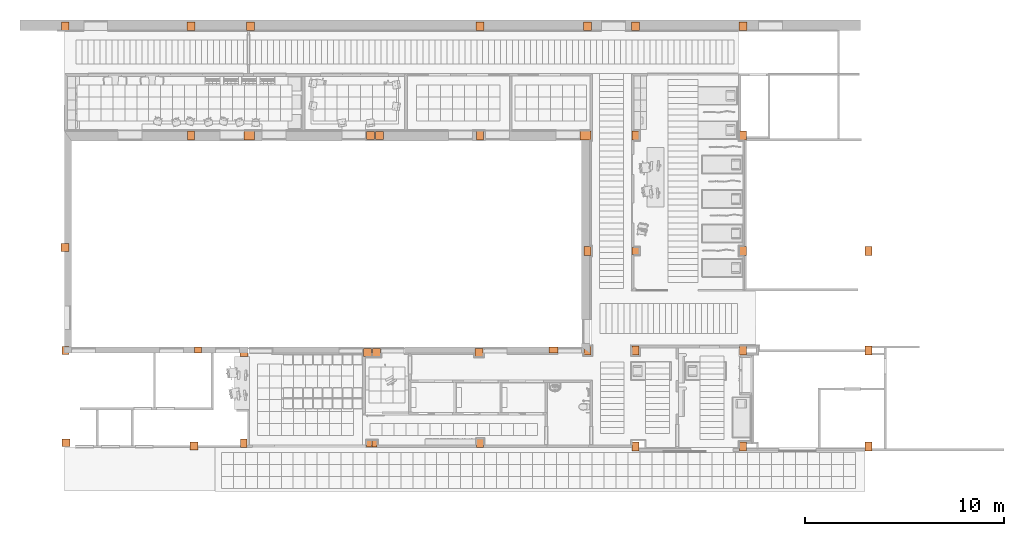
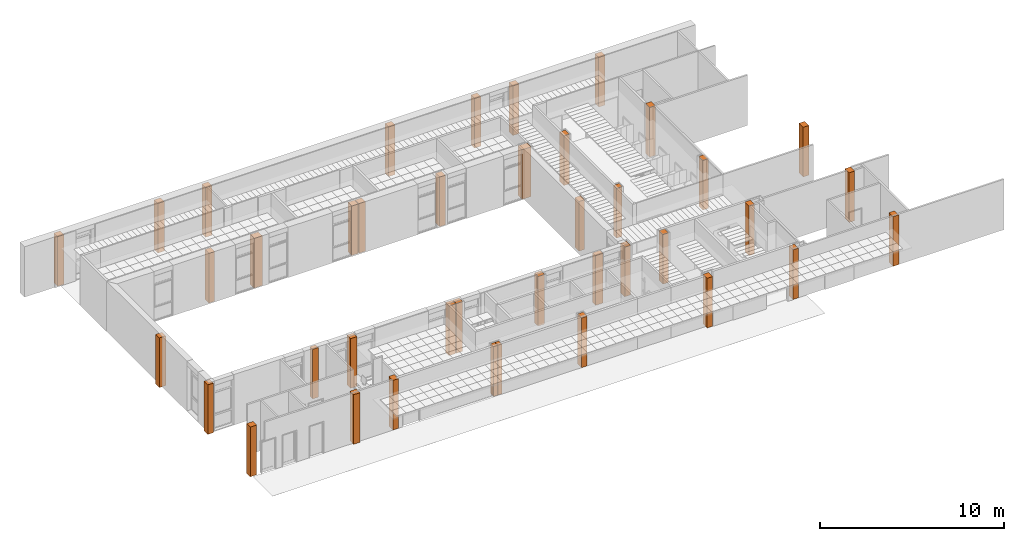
# One storey, part 68 of 68: 40 proxies.
"""IFC2X3 building model written with IfcOpenShell, lengths in millimetres."""

from ifc_helpers import new_model, entity, si_unit, converted_unit, derived_unit, money_unit, direction, frame, origin_with_axes, origin_2d_with_axis, place, context, subcontext, project, spatial, rectangle, extrude, material, type_object, element, save


model = new_model("IFC2X3")

# Units and contexts
model_context = context("Model", 3, precision=0.01, world=origin_with_axes(), true_north=direction((0.0, 1.0)))
body_context = subcontext(model_context, "Body", "Model", "MODEL_VIEW")
ifc_project = project(units=[si_unit("LENGTHUNIT", "METRE", prefix="MILLI"), si_unit("AREAUNIT", "SQUARE_METRE"), si_unit("VOLUMEUNIT", "CUBIC_METRE"), converted_unit("PLANEANGLEUNIT", "DEGREE", entity("IfcPlaneAngleMeasure", 0.0174532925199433), si_unit("PLANEANGLEUNIT", "RADIAN"), dimensions=[0, 0, 0, 0, 0, 0, 0]), money_unit("USD"), converted_unit("TIMEUNIT", "Year", entity("IfcTimeMeasure", 31557600.0), si_unit("TIMEUNIT", "SECOND"), dimensions=[0, 0, 1, 0, 0, 0, 0]), si_unit("MASSUNIT", "GRAM", prefix="KILO"), si_unit("THERMODYNAMICTEMPERATUREUNIT", "DEGREE_CELSIUS"), si_unit("LUMINOUSINTENSITYUNIT", "LUMEN"), si_unit("ENERGYUNIT", "JOULE", prefix="MEGA"), derived_unit("THERMALCONDUCTANCEUNIT", [(si_unit("POWERUNIT", "WATT"), 1), (si_unit("LENGTHUNIT", "METRE"), -1), (si_unit("THERMODYNAMICTEMPERATUREUNIT", "KELVIN"), -1)]), derived_unit("SPECIFICHEATCAPACITYUNIT", [(si_unit("ENERGYUNIT", "JOULE"), 1), (si_unit("MASSUNIT", "GRAM", prefix="KILO"), -1), (si_unit("THERMODYNAMICTEMPERATUREUNIT", "KELVIN"), -1)]), derived_unit("MASSDENSITYUNIT", [(si_unit("MASSUNIT", "GRAM", prefix="KILO"), 1), (si_unit("VOLUMEUNIT", "CUBIC_METRE"), -1)])], contexts=[model_context])

# Site, building, storey
site_placement = place(None, origin_with_axes())
site = spatial("IfcSite", under=ifc_project, at=site_placement, Name="Sitio", CompositionType="ELEMENT")
building_placement = place(site_placement, origin_with_axes())
building = spatial("IfcBuilding", under=site, at=building_placement, Name="Construcción", CompositionType="ELEMENT")
storey_placement = place(building_placement, origin_with_axes())
storey = spatial("IfcBuildingStorey", under=building, at=storey_placement, Name="PLANTA 1ª", CompositionType="ELEMENT", Elevation=0.0)

# Proxies
ifc_material = material(Name="ARQ_GN002_Generic Estructural")
building_element_proxy_type_1 = type_object("IfcBuildingElementProxyType", Name="ARQ_GN002_Generic Estructural 400 x 400", PredefinedType="NOTDEFINED")
for number, where, z_axis, x_axis, name in (
    (1, (-12397.41864098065, -12294.56065474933, 0.0), (0.0, 0.0, 1.0), (1.0, 0.0, 0.0), "CRE - 005"),
    (2, (-7250.39355072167, -12294.56065474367, 0.0), (0.0, 0.0, 1.0), (1.0, 0.0, 0.0), "CRE - 005"),
    (3, (-12848.36846045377, -12294.56065474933, 0.0), (0.0, 0.0, 1.0), (1.0, 0.0, 0.0), "CRE - 005"),
    (4, (-19050.39355072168, -12294.56065474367, 0.0), (0.0, 0.0, 1.0), (1.0, 0.0, 0.0), "CRE - 005"),
):
    element("IfcBuildingElementProxy", number, at=place(storey_placement, frame(where, z_axis=z_axis, x_axis=x_axis)), inside=storey, type_object=building_element_proxy_type_1, material=ifc_material, Name=name, context=body_context, shape_type="SweptSolid", body=[
        extrude(rectangle(XDim=400.0012945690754, YDim=400.000000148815, at=origin_2d_with_axis()), origin_with_axes(), (0.0, 0.0, 1.0), 3300.0),
    ])
for number, where, z_axis, x_axis, name in (
    (5, (-12686.81040057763, -1413.975222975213, 0.0), (0.0, 0.0, 1.0), (1.0, 0.0, 0.0), "CRE - 005"),
    (6, (-12235.86058110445, -1413.975222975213, 0.0), (0.0, 0.0, 1.0), (1.0, 0.0, 0.0), "CRE - 005"),
):
    element("IfcBuildingElementProxy", number, at=place(storey_placement, frame(where, z_axis=z_axis, x_axis=x_axis)), inside=storey, type_object=building_element_proxy_type_1, material=ifc_material, Name=name, context=body_context, shape_type="SweptSolid", body=[
        extrude(rectangle(XDim=400.0019841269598, YDim=400.001201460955, at=origin_2d_with_axis()), origin_with_axes(), (0.0, 0.0, 1.0), 3300.0),
    ])
proxy_1_placement = place(storey_placement, frame((-27967.89518992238, -16833.97642450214, 0.0), z_axis=(0.0, 0.0, 1.0), x_axis=(1.0, 0.0, 0.0)))
element("IfcBuildingElementProxy", 7, at=proxy_1_placement, inside=storey, type_object=building_element_proxy_type_1, material=ifc_material, Name="CRE - 005", context=body_context, shape_type="SweptSolid", body=[
    extrude(rectangle(XDim=400.0019838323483, YDim=400.0012015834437, at=origin_2d_with_axis()), origin_with_axes(), (0.0, 0.0, 1.0), 3300.0),
])
proxy_2_placement = place(storey_placement, frame((-21556.10801299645, -16988.97522291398, 0.0), z_axis=(0.0, 0.0, 1.0), x_axis=(1.0, 0.0, 0.0)))
element("IfcBuildingElementProxy", 8, at=proxy_2_placement, inside=storey, type_object=building_element_proxy_type_1, material=ifc_material, Name="CRE - 005", context=body_context, shape_type="SweptSolid", body=[
    extrude(rectangle(XDim=400.0019838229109, YDim=400.0012015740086, at=origin_2d_with_axis()), origin_with_axes(), (0.0, 0.0, 1.0), 3300.0),
])
building_element_proxy_type_2 = type_object("IfcBuildingElementProxyType", Name="ARQ_GN002_Generic Estructural 350 x 450", PredefinedType="NOTDEFINED")
for number, where, z_axis, x_axis, name in (
    (9, (603.8910213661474, -12213.97574135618, 0.0), (0.0, 0.0, 1.0), (1.0, 0.0, 0.0), "CRE - 005"),
    (10, (6003.891021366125, -12213.97574135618, 0.0), (0.0, 0.0, 1.0), (1.0, 0.0, 0.0), "CRE - 005"),
    (11, (6003.891021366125, -7213.975741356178, 0.0), (0.0, 0.0, 1.0), (1.0, 0.0, 0.0), "CRE - 005"),
    (12, (603.891021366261, -1413.975741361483, 0.0), (0.0, 0.0, 1.0), (1.0, 0.0, 0.0), "CRE - 005"),
    (13, (6003.891021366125, -1413.975741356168, 0.0), (0.0, 0.0, 1.0), (1.0, 0.0, 0.0), "CRE - 005"),
):
    element("IfcBuildingElementProxy", number, at=place(storey_placement, frame(where, z_axis=z_axis, x_axis=x_axis)), inside=storey, type_object=building_element_proxy_type_2, material=ifc_material, Name=name, context=body_context, shape_type="SweptSolid", body=[
        extrude(rectangle(XDim=350.0000525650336, YDim=450.00016468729, at=origin_2d_with_axis()), origin_with_axes(), (0.0, 0.0, 1.0), 3300.0),
    ])
proxy_3_placement = place(storey_placement, frame((-19053.60813676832, -16858.9764995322, 0.0), z_axis=(0.0, 0.0, 1.0), x_axis=(1.0, 0.0, 0.0)))
element("IfcBuildingElementProxy", 14, at=proxy_3_placement, inside=storey, type_object=building_element_proxy_type_2, material=ifc_material, Name="CRE - 005", context=body_context, shape_type="SweptSolid", body=[
    extrude(rectangle(XDim=350.0017362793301, YDim=450.0013516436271, at=origin_2d_with_axis()), origin_with_axes(), (0.0, 0.0, 1.0), 3300.0),
])
proxy_4_placement = place(storey_placement, frame((-7192.894196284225, -16858.97582404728, 0.0), z_axis=(0.0, 0.0, 1.0), x_axis=(1.0, 0.0, 0.0)))
element("IfcBuildingElementProxy", 15, at=proxy_4_placement, inside=storey, type_object=building_element_proxy_type_2, material=ifc_material, Name="CRE - 005", context=body_context, shape_type="SweptSolid", body=[
    extrude(rectangle(XDim=350.0000034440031, YDim=450.0000006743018, at=origin_2d_with_axis()), origin_with_axes(), (0.0, 0.0, 1.0), 3300.0),
])
proxy_5_placement = place(storey_placement, frame((-1796.108978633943, -7213.975648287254, 0.0), z_axis=(0.0, 0.0, 1.0), x_axis=(1.0, 0.0, 0.0)))
element("IfcBuildingElementProxy", 16, at=proxy_5_placement, inside=storey, type_object=building_element_proxy_type_2, material=ifc_material, Name="CRE - 005", context=body_context, shape_type="SweptSolid", body=[
    extrude(rectangle(XDim=350.0000525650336, YDim=450.0020821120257, at=origin_2d_with_axis()), origin_with_axes(), (0.0, 0.0, 1.0), 3300.0),
])
proxy_6_placement = place(storey_placement, frame((6003.891049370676, -17013.97565867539, 0.0), z_axis=(0.0, 0.0, 1.0), x_axis=(1.0, 0.0, 0.0)))
element("IfcBuildingElementProxy", 17, at=proxy_6_placement, inside=storey, type_object=building_element_proxy_type_2, material=ifc_material, Name="CRE - 005", context=body_context, shape_type="SweptSolid", body=[
    extrude(rectangle(XDim=350.0000034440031, YDim=450.0000006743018, at=origin_2d_with_axis()), origin_with_axes(), (0.0, 0.0, 1.0), 3300.0),
])
proxy_7_placement = place(storey_placement, frame((12303.89102136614, -7213.97574135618, 0.0), z_axis=(0.0, 0.0, 1.0), x_axis=(1.0, 0.0, 0.0)))
element("IfcBuildingElementProxy", 18, at=proxy_7_placement, inside=storey, type_object=building_element_proxy_type_2, material=ifc_material, Name="CRE - 005", context=body_context, shape_type="SweptSolid", body=[
    extrude(rectangle(XDim=350.0000525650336, YDim=450.00016468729, at=origin_2d_with_axis()), origin_with_axes(), (0.0, 0.0, 1.0), 3300.0),
])
proxy_8_placement = place(storey_placement, frame((603.8910493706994, -17013.97565867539, 0.0), z_axis=(0.0, 0.0, 1.0), x_axis=(1.0, 0.0, 0.0)))
element("IfcBuildingElementProxy", 19, at=proxy_8_placement, inside=storey, type_object=building_element_proxy_type_2, material=ifc_material, Name="CRE - 005", context=body_context, shape_type="SweptSolid", body=[
    extrude(rectangle(XDim=350.0000034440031, YDim=450.0000006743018, at=origin_2d_with_axis()), origin_with_axes(), (0.0, 0.0, 1.0), 3300.0),
])
proxy_9_placement = place(storey_placement, frame((12303.89102136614, -12213.97574135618, 0.0), z_axis=(0.0, 0.0, 1.0), x_axis=(1.0, 0.0, 0.0)))
element("IfcBuildingElementProxy", 20, at=proxy_9_placement, inside=storey, type_object=building_element_proxy_type_2, material=ifc_material, Name="CRE - 005", context=body_context, shape_type="SweptSolid", body=[
    extrude(rectangle(XDim=350.0000525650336, YDim=450.00016468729, at=origin_2d_with_axis()), origin_with_axes(), (0.0, 0.0, 1.0), 3300.0),
])
proxy_10_placement = place(storey_placement, frame((12303.89104937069, -17013.97565867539, 0.0), z_axis=(0.0, 0.0, 1.0), x_axis=(1.0, 0.0, 0.0)))
element("IfcBuildingElementProxy", 21, at=proxy_10_placement, inside=storey, type_object=building_element_proxy_type_2, material=ifc_material, Name="CRE - 005", context=body_context, shape_type="SweptSolid", body=[
    extrude(rectangle(XDim=350.0000034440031, YDim=450.0000006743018, at=origin_2d_with_axis()), origin_with_axes(), (0.0, 0.0, 1.0), 3300.0),
])
building_element_proxy_type_3 = type_object("IfcBuildingElementProxyType", Name="ARQ_GN002_Generic Estructural 250 x 345", PredefinedType="NOTDEFINED")
for number, where, z_axis, x_axis, name in (
    (22, (-12758.5965845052, -16886.47582345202, 0.0), (0.0, 0.0, 1.0), (1.0, 0.0, 0.0), "CRE - 005"),
    (23, (-12487.19180904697, -16886.47582396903, 0.0), (0.0, 0.0, 1.0), (1.0, 0.0, 0.0), "CRE - 005"),
):
    element("IfcBuildingElementProxy", number, at=place(storey_placement, frame(where, z_axis=z_axis, x_axis=x_axis)), inside=storey, type_object=building_element_proxy_type_3, material=ifc_material, Name=name, context=body_context, shape_type="SweptSolid", body=[
        extrude(rectangle(XDim=250.0000024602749, YDim=345.0000005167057, at=origin_2d_with_axis()), origin_with_axes(), (0.0, 0.0, 1.0), 3300.0),
    ])
building_element_proxy_type_4 = type_object("IfcBuildingElementProxyType", Name="ARQ_GN002_Generic Estructural 400 x 405", PredefinedType="NOTDEFINED")
for number, where, z_axis, x_axis, name in (
    (24, (5999.531992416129, 4065.732157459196, 0.0), (0.0, 0.0, 1.0), (1.0, 0.0, 0.0), "CRE - 005"),
    (25, (-28009.76540890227, 4065.7321574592, 0.0), (0.0, 0.0, 1.0), (1.0, 0.0, 0.0), "CRE - 005"),
    (26, (-21709.76540890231, 4065.732157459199, 0.0), (0.0, 0.0, 1.0), (1.0, 0.0, 0.0), "CRE - 005"),
    (27, (-18709.76540890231, 4065.732157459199, 0.0), (0.0, 0.0, 1.0), (1.0, 0.0, 0.0), "CRE - 005"),
    (28, (-1800.4680700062, 4065.732157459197, 0.0), (0.0, 0.0, 1.0), (1.0, 0.0, 0.0), "CRE - 005"),
    (29, (599.5319299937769, 4065.732157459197, 0.0), (0.0, 0.0, 1.0), (1.0, 0.0, 0.0), "CRE - 005"),
    (30, (-7200.467796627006, 4065.732157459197, 0.0), (0.0, 0.0, 1.0), (1.0, 0.0, 0.0), "CRE - 005"),
):
    element("IfcBuildingElementProxy", number, at=place(storey_placement, frame(where, z_axis=z_axis, x_axis=x_axis)), inside=storey, type_object=building_element_proxy_type_4, material=ifc_material, Name=name, context=body_context, shape_type="SweptSolid", body=[
        extrude(rectangle(XDim=400.0002733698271, YDim=404.557563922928, at=origin_2d_with_axis()), origin_with_axes(), (0.0, 0.0, 1.0), 3300.0),
    ])
building_element_proxy_type_5 = type_object("IfcBuildingElementProxyType", Name="ARQ_GN002_Generic Estructural 562 x 445", PredefinedType="NOTDEFINED")
proxy_11_placement = place(storey_placement, frame((-1902.270180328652, -1416.475823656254, 0.0), z_axis=(0.0, 0.0, 1.0), x_axis=(1.0, 0.0, 0.0)))
element("IfcBuildingElementProxy", 31, at=proxy_11_placement, inside=storey, type_object=building_element_proxy_type_5, material=ifc_material, Name="CRE - 005", context=body_context, shape_type="SweptSolid", body=[
    extrude(rectangle(XDim=562.3223509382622, YDim=445.0000001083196, at=origin_2d_with_axis()), origin_with_axes(), (0.0, 0.0, 1.0), 3300.0),
])
building_element_proxy_type_6 = type_object("IfcBuildingElementProxyType", Name="ARQ_GN002_Generic Estructural 350 x 445", PredefinedType="NOTDEFINED")
proxy_12_placement = place(storey_placement, frame((-7196.108136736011, -1416.475375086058, 0.0), z_axis=(0.0, 0.0, 1.0), x_axis=(1.0, 0.0, 0.0)))
element("IfcBuildingElementProxy", 32, at=proxy_12_placement, inside=storey, type_object=building_element_proxy_type_6, material=ifc_material, Name="CRE - 005", context=body_context, shape_type="SweptSolid", body=[
    extrude(rectangle(XDim=350.0017363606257, YDim=445.0008972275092, at=origin_2d_with_axis()), origin_with_axes(), (0.0, 0.0, 1.0), 3300.0),
])
building_element_proxy_type_7 = type_object("IfcBuildingElementProxyType", Name="ARQ_GN002_Generic Estructural 513 x 445", PredefinedType="NOTDEFINED")
proxy_13_placement = place(storey_placement, frame((-18777.52018058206, -1416.475823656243, 0.0), z_axis=(0.0, 0.0, 1.0), x_axis=(1.0, 0.0, 0.0)))
element("IfcBuildingElementProxy", 33, at=proxy_13_placement, inside=storey, type_object=building_element_proxy_type_7, material=ifc_material, Name="CRE - 005", context=body_context, shape_type="SweptSolid", body=[
    extrude(rectangle(XDim=512.8223513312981, YDim=445.0000001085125, at=origin_2d_with_axis()), origin_with_axes(), (0.0, 0.0, 1.0), 3300.0),
])
building_element_proxy_type_8 = type_object("IfcBuildingElementProxyType", Name="ARQ_GN002_Generic Estructural 353 x 445", PredefinedType="NOTDEFINED")
proxy_14_placement = place(storey_placement, frame((-21694.6205481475, -1416.475375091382, 0.0), z_axis=(0.0, 0.0, 1.0), x_axis=(1.0, 0.0, 0.0)))
element("IfcBuildingElementProxy", 34, at=proxy_14_placement, inside=storey, type_object=building_element_proxy_type_8, material=ifc_material, Name="CRE - 005", context=body_context, shape_type="SweptSolid", body=[
    extrude(rectangle(XDim=352.9769135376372, YDim=445.0008972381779, at=origin_2d_with_axis()), origin_with_axes(), (0.0, 0.0, 1.0), 3300.0),
])
building_element_proxy_type_9 = type_object("IfcBuildingElementProxyType", Name="ARQ_GN002_Generic Estructural 353 x 450", PredefinedType="NOTDEFINED")
proxy_15_placement = place(storey_placement, frame((-1794.501576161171, -12213.97590582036, 0.0), z_axis=(0.0, 0.0, 1.0), x_axis=(1.0, 0.0, 0.0)))
element("IfcBuildingElementProxy", 35, at=proxy_15_placement, inside=storey, type_object=building_element_proxy_type_9, material=ifc_material, Name="CRE - 005", context=body_context, shape_type="SweptSolid", body=[
    extrude(rectangle(XDim=353.2148614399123, YDim=450.0001651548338, at=origin_2d_with_axis()), origin_with_axes(), (0.0, 0.0, 1.0), 3300.0),
])
building_element_proxy_type_10 = type_object("IfcBuildingElementProxyType", Name="ARQ_GN002_Generic Estructural 350 x 360", PredefinedType="NOTDEFINED")
proxy_16_placement = place(storey_placement, frame((603.891021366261, -7213.975823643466, 0.0), z_axis=(0.0, 0.0, 1.0), x_axis=(1.0, 0.0, 0.0)))
element("IfcBuildingElementProxy", 36, at=proxy_16_placement, inside=storey, type_object=building_element_proxy_type_10, material=ifc_material, Name="CRE - 005", context=body_context, shape_type="SweptSolid", body=[
    extrude(rectangle(XDim=350.0000525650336, YDim=360.0000001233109, at=origin_2d_with_axis()), origin_with_axes(), (0.0, 0.0, 1.0), 3300.0),
])
building_element_proxy_type_11 = type_object("IfcBuildingElementProxyType", Name="ARQ_GN002_Generic Estructural 350 x 400", PredefinedType="NOTDEFINED")
proxy_17_placement = place(storey_placement, frame((-27992.89506614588, -12207.00477019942, 0.0), z_axis=(0.0, 0.0, 1.0), x_axis=(1.0, 0.0, 0.0)))
element("IfcBuildingElementProxy", 37, at=proxy_17_placement, inside=storey, type_object=building_element_proxy_type_11, material=ifc_material, Name="CRE - 005", context=body_context, shape_type="SweptSolid", body=[
    extrude(rectangle(XDim=350.0017362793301, YDim=400.000000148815, at=origin_2d_with_axis()), origin_with_axes(), (0.0, 0.0, 1.0), 3300.0),
])
building_element_proxy_type_12 = type_object("IfcBuildingElementProxyType", Name="ARQ_GN002_Generic Estructural 451 x 320", PredefinedType="NOTDEFINED")
proxy_18_placement = place(storey_placement, frame((-3523.39420075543, -12178.97582545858, 0.0), z_axis=(0.0, 0.0, 1.0), x_axis=(1.0, 0.0, 0.0)))
element("IfcBuildingElementProxy", 38, at=proxy_18_placement, inside=storey, type_object=building_element_proxy_type_12, material=ifc_material, Name="CRE - 005", context=body_context, shape_type="SweptSolid", body=[
    extrude(rectangle(XDim=451.0000054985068, YDim=320.0000034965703, at=origin_2d_with_axis()), origin_with_axes(), (0.0, 0.0, 1.0), 3300.0),
])
building_element_proxy_type_13 = type_object("IfcBuildingElementProxyType", Name="ARQ_GN002_Generic Estructural 350 x 299", PredefinedType="NOTDEFINED")
proxy_19_placement = place(storey_placement, frame((-21356.21568074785, -12189.26823963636, 0.0), z_axis=(0.0, 0.0, 1.0), x_axis=(1.0, 0.0, 0.0)))
element("IfcBuildingElementProxy", 39, at=proxy_19_placement, inside=storey, type_object=building_element_proxy_type_13, material=ifc_material, Name="CRE - 005", context=body_context, shape_type="SweptSolid", body=[
    extrude(rectangle(XDim=350.0017362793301, YDim=299.4151699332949, at=origin_2d_with_axis()), origin_with_axes(), (0.0, 0.0, 1.0), 3300.0),
])
building_element_proxy_type_14 = type_object("IfcBuildingElementProxyType", Name="ARQ_GN002_Generic Estructural 410 x 400", PredefinedType="NOTDEFINED")
proxy_20_placement = place(storey_placement, frame((-28023.1106332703, -7033.975823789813, 0.0), z_axis=(0.0, 0.0, 1.0), x_axis=(1.0, 0.0, 0.0)))
element("IfcBuildingElementProxy", 40, at=proxy_20_placement, inside=storey, type_object=building_element_proxy_type_14, material=ifc_material, Name="CRE - 005", context=body_context, shape_type="SweptSolid", body=[
    extrude(rectangle(XDim=410.4363430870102, YDim=400.000000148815, at=origin_2d_with_axis()), origin_with_axes(), (0.0, 0.0, 1.0), 3300.0),
])

save(model, "model.ifc")
